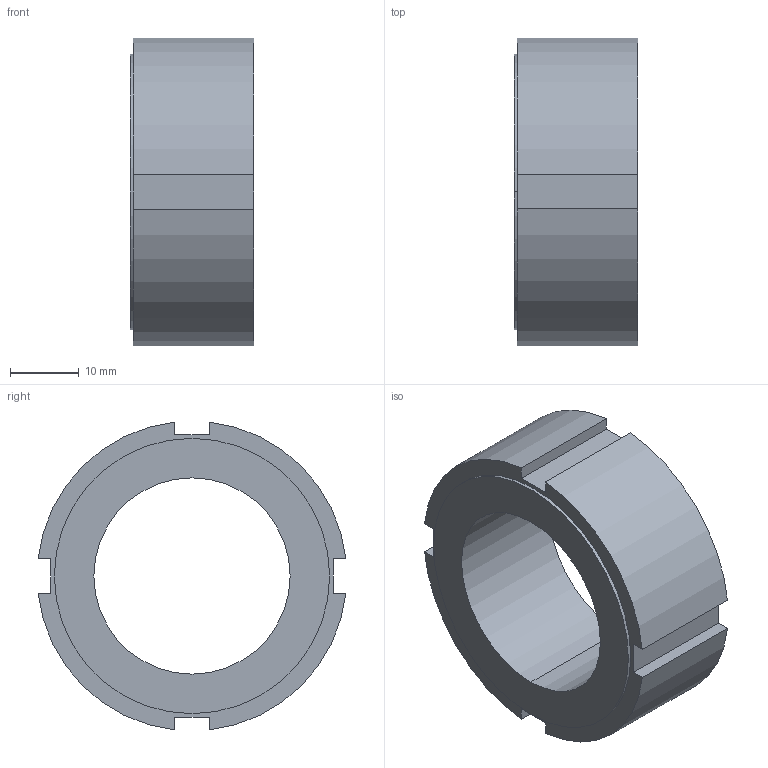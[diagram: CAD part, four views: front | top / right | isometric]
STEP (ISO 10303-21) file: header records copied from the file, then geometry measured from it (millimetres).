
FILE_DESCRIPTION (( 'STEP AP203' ), '1' );
FILE_NAME ('HIA30.STEP', '2002-08-15T11:36:34', ( '.' ), ( '.' ), 'SwSTEP 2.0', 'SolidWorks 2001340', '' );
FILE_SCHEMA (( 'CONFIG_CONTROL_DESIGN' ));
Length unit declared in the file: millimetre
Products named in the file (1): HIA30
Bounding box: 18 x 44.72 x 44.72 mm (x, y, z)
Volume: 16294.2 mm3; surface area: 6235.1 mm2
Topology: 1 solids, 1 shells, 23 faces, 60 edges, 40 vertices
Faces by surface type: plane 15, cylinder 8
Entity records: 791 total; most frequent: CARTESIAN_POINT 124, DIRECTION 124, ORIENTED_EDGE 120, EDGE_CURVE 60, LINE 44, VECTOR 44, VERTEX_POINT 40, AXIS2_PLACEMENT_3D 40
